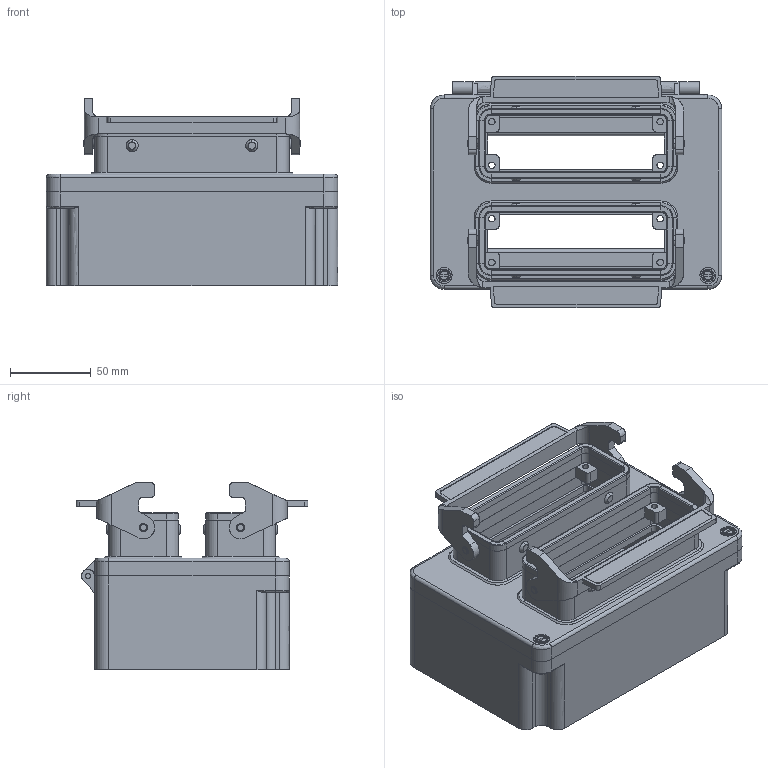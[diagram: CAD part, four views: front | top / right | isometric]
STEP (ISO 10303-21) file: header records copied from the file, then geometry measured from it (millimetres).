
FILE_DESCRIPTION( ( 'STEP AP214' ), '1' );
FILE_NAME( 'C:/Dokumente und Einstellungen/Administrator/Desktop/47 Kabelboxen/G4/15/gr_4_24e_24e-bb.stp', '2006-09-10T21:13:59', ( ' ' ), ( ' ' ), 'XStep 1.0', 'VISICAD', ' ' );
FILE_SCHEMA( ( 'automotive_design' ) );
Length unit declared in the file: millimetre
Products named in the file (1185): 1; 2; 3; 4; 5; 6; 7; 8; 9; 10; 11; 12; 13; 14; 15; 16; 17; 18; 19; 20; 21; 22; 23; 24; 25; 26; 27; 28; 29; 30; 31; 32; 33; 34; 35; 36; 37; 38; 39; 40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
Bounding box: 180 x 143 x 115.9 mm (x, y, z)
Surface area: 213789.5 mm2 (no closed solid volume)
Topology: 0 solids, 1185 shells, 1185 faces, 5916 edges, 5916 vertices
Faces by surface type: plane 581, bspline 320, revolution 240, cylinder 44
Entity records: 130111 total; most frequent: CARTESIAN_POINT 59451, DIRECTION 8510, ORIENTED_EDGE 5916, EDGE_CURVE 5916, VERTEX_POINT 5916, LINE 3362, VECTOR 3362, AXIS2_PLACEMENT_3D 2454
